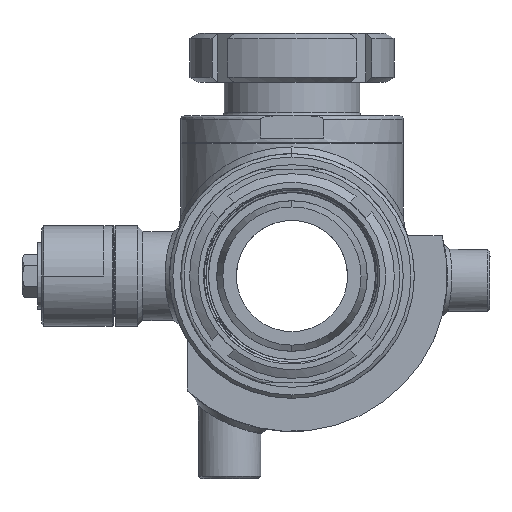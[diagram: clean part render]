
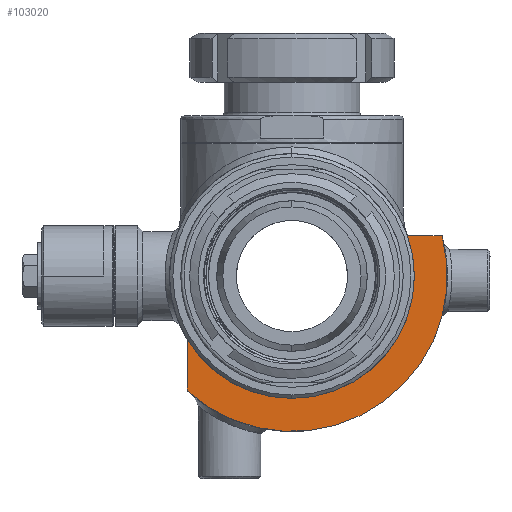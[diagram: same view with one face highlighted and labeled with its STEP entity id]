
A CAD part, left-side view. The second image highlights one B-rep face of the part: STEP entity #103020.
In plain terms, the highlighted planar face has unit normal (-1, 0, 0).
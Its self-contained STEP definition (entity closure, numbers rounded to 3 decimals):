
#260=CARTESIAN_POINT('',(-56.,0.,0.));
#261=DIRECTION('',(1.,0.,0.));
#262=DIRECTION('',(0.,0.,-1.));
#263=AXIS2_PLACEMENT_3D('',#260,#261,#262);
#563=CARTESIAN_POINT('',(-56.,0.,0.));
#564=DIRECTION('',(1.,0.,0.));
#565=DIRECTION('',(0.,-0.945,0.327));
#566=AXIS2_PLACEMENT_3D('',#563,#564,#565);
#52713=DIRECTION('',(0.,-1.,0.));
#52714=VECTOR('',#52713,15.52);
#52715=CARTESIAN_POINT('',(-56.,-51.971,18.));
#52716=LINE('',#52715,#52714);
#52720=CARTESIAN_POINT('',(-56.,0.,0.));
#52721=DIRECTION('',(1.,0.,0.));
#52722=DIRECTION('',(0.,-0.966,0.258));
#52723=AXIS2_PLACEMENT_3D('',#52720,#52721,#52722);
#52728=DIRECTION('',(0.,0.,1.));
#52729=VECTOR('',#52728,23.107);
#52730=CARTESIAN_POINT('',(-56.,47.,-51.672));
#52731=LINE('',#52730,#52729);
#61170=CARTESIAN_POINT('',(-56.,-67.491,18.));
#61171=CARTESIAN_POINT('',(-56.,47.,-51.672));
#61172=VERTEX_POINT('',#61170);
#61173=VERTEX_POINT('',#61171);
#61174=CARTESIAN_POINT('',(-56.,-51.971,18.));
#61175=CARTESIAN_POINT('',(-56.,0.,-55.));
#61176=VERTEX_POINT('',#61174);
#61177=VERTEX_POINT('',#61175);
#61180=CARTESIAN_POINT('',(-56.,47.,-28.566));
#61181=VERTEX_POINT('',#61180);
#103008=CARTESIAN_POINT('',(-56.,0.,0.));
#103009=DIRECTION('',(1.,0.,0.));
#103010=DIRECTION('',(0.,0.,-1.));
#103011=AXIS2_PLACEMENT_3D('',#103008,#103009,#103010);
#103012=PLANE('',#103011);
#103013=ORIENTED_EDGE('',*,*,#64162,.F.);
#103014=ORIENTED_EDGE('',*,*,#93227,.T.);
#103015=ORIENTED_EDGE('',*,*,#92955,.T.);
#103016=ORIENTED_EDGE('',*,*,#92934,.T.);
#103017=ORIENTED_EDGE('',*,*,#63748,.F.);
#103018=EDGE_LOOP('',(#103013,#103014,#103015,#103016,#103017));
#103019=FACE_OUTER_BOUND('',#103018,.F.);
#103020=ADVANCED_FACE('',(#103019),#103012,.F.);
#264=CIRCLE('',#263,55.);
#567=CIRCLE('',#566,55.);
#52724=CIRCLE('',#52723,69.85);
#63748=EDGE_CURVE('',#61177,#61181,#264,.T.);
#64162=EDGE_CURVE('',#61176,#61177,#567,.T.);
#92934=EDGE_CURVE('',#61173,#61181,#52731,.T.);
#92955=EDGE_CURVE('',#61172,#61173,#52724,.T.);
#93227=EDGE_CURVE('',#61176,#61172,#52716,.T.);
